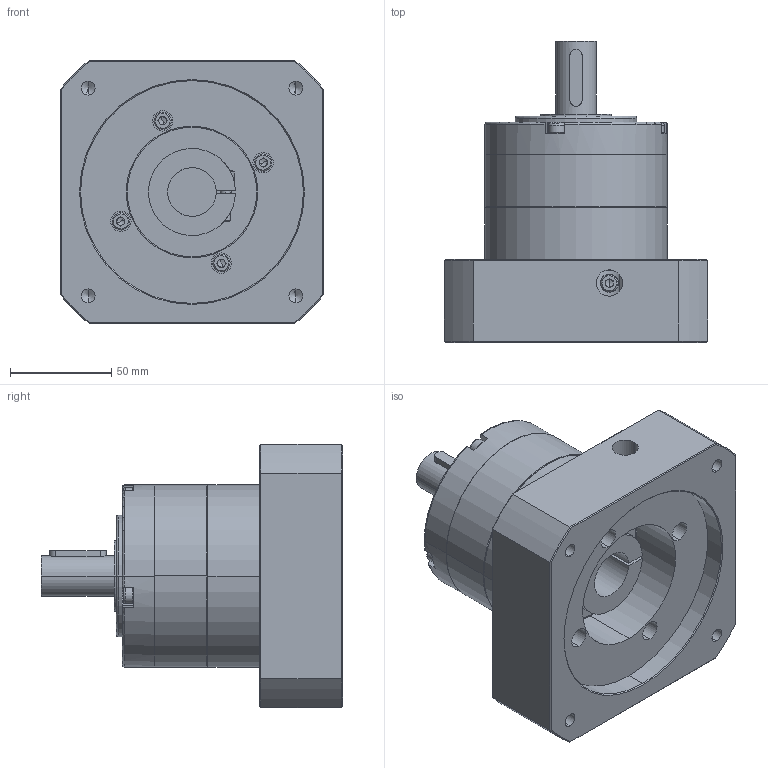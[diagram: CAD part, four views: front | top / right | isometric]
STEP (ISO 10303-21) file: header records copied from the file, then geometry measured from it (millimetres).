
FILE_DESCRIPTION (( 'STEP AP203' ), '1' );
FILE_NAME ('1G3YS.110130.143.STEP', '2019-05-16T09:22:37', ( '' ), ( '' ), 'SwSTEP 2.0', 'SolidWorks 2010', '' );
FILE_SCHEMA (( 'CONFIG_CONTROL_DESIGN' ));
Length unit declared in the file: millimetre
Products named in the file (9): PAN34-B(插齒模型)_7.縮短; PNS80-FP(模型)_4.成品; PAN34-BP(模型)_2.?24; 沉頭內六角M5xP0.8x20L_CB5-5; 雙圓鍵6x28; 234BN35410_銑工; 1G3YS.110130.143; M5､ｺ､ｻｨ､ﾁｳｵｷ[ｼﾒｲﾕ､ﾆ]8~95mm_020mm; M4､ｺ､ｻｨ､ﾁｳｵｷ[ｼﾒｲﾕ､ﾆ]12~70mm_M4xP0.7x30L
Assembly tree (18 placements, depth 2):
  1G3YS.110130.143
    234BN35410_銑工
    沉頭內六角M5xP0.8x20L_CB5-5  x5
    M5､ｺ､ｻｨ､ﾁｳｵｷ[ｼﾒｲﾕ､ﾆ]8~95mm_020mm  x4
    PNS80-FP(模型)_4.成品
    PAN34-B(插齒模型)_7.縮短
    M4､ｺ､ｻｨ､ﾁｳｵｷ[ｼﾒｲﾕ､ﾆ]12~70mm_M4xP0.7x30L  x4
    雙圓鍵6x28
    PAN34-BP(模型)_2.?24
Bounding box: 130 x 148.7 x 130 mm (x, y, z)
Volume: 928407 mm3; surface area: 146654.3 mm2
Topology: 18 solids, 18 shells, 600 faces, 1374 edges, 835 vertices
Faces by surface type: plane 252, cylinder 208, cone 120, torus 20
Entity records: 12050 total; most frequent: CARTESIAN_POINT 2196, DIRECTION 1983, ORIENTED_EDGE 1652, EDGE_CURVE 826, AXIS2_PLACEMENT_3D 811, VERTEX_POINT 526, EDGE_LOOP 454, CIRCLE 425
